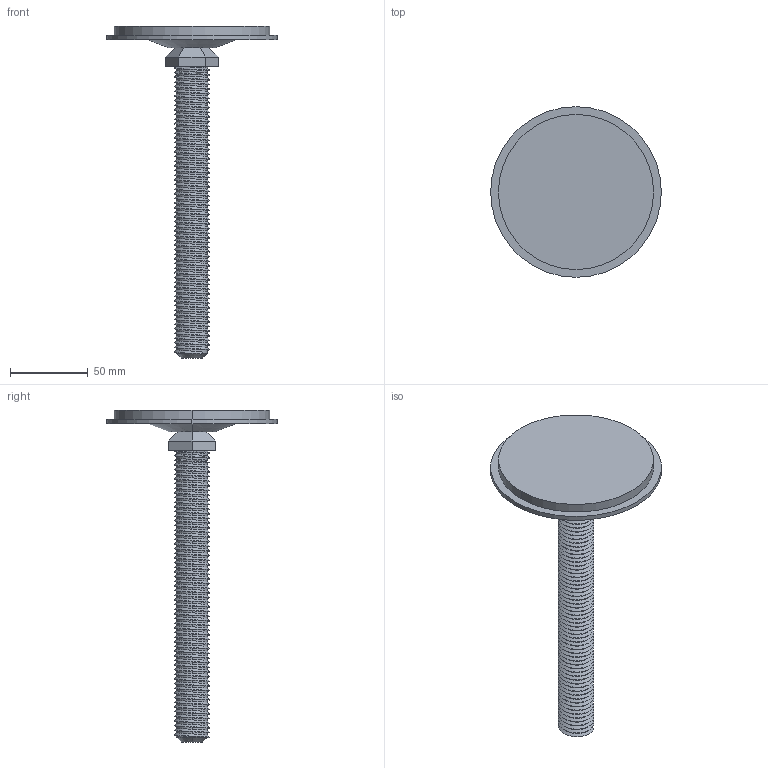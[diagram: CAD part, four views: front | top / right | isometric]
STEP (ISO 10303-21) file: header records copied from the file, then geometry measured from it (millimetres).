
FILE_DESCRIPTION (( 'STEP AP203' ), '1' );
FILE_NAME ('Ø110 TABAN.STEP', '2022-02-04T14:25:04', ( '' ), ( '' ), 'SwSTEP 2.0', 'SolidWorks 2021', '' );
FILE_SCHEMA (( 'CONFIG_CONTROL_DESIGN' ));
Length unit declared in the file: millimetre
Products named in the file (1): ﾘ110  TABAN
Bounding box: 110 x 110 x 214 mm (x, y, z)
Volume: 145170.7 mm3; surface area: 61324.3 mm2
Topology: 3 solids, 3 shells, 170 faces, 470 edges, 310 vertices
Faces by surface type: cylinder 137, plane 24, cone 6, bspline 3
Entity records: 11876 total; most frequent: CARTESIAN_POINT 8177, ORIENTED_EDGE 940, DIRECTION 592, EDGE_CURVE 470, VERTEX_POINT 310, AXIS2_PLACEMENT_3D 208, EDGE_LOOP 180, VECTOR 176
